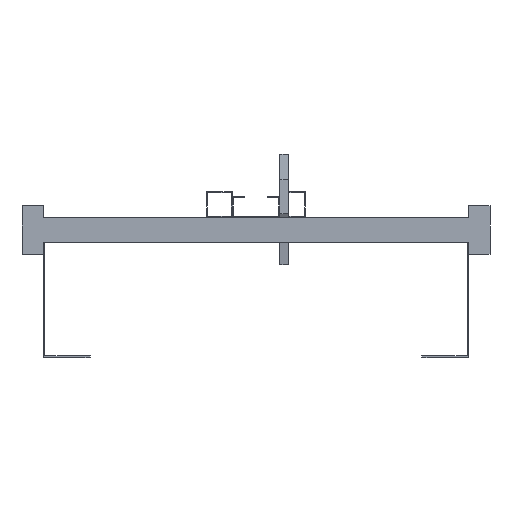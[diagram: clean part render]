
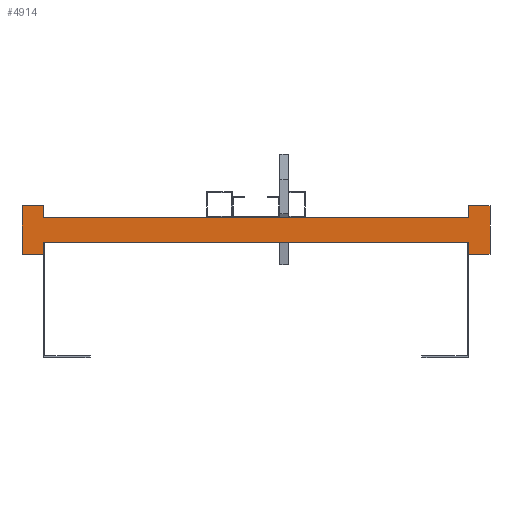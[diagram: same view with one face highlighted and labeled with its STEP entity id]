
A CAD part, front view. The second image highlights one B-rep face of the part: STEP entity #4914.
In plain terms, the highlighted planar face has unit normal (0, -1, 0).
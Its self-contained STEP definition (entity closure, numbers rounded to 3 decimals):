
#1773=DIRECTION('',(0.,0.,1.));
#1774=VECTOR('',#1773,13.5);
#1775=CARTESIAN_POINT('',(250.,0.,-28.5));
#1776=LINE('',#1775,#1774);
#1777=DIRECTION('',(0.,0.,-1.));
#1778=VECTOR('',#1777,13.5);
#1779=CARTESIAN_POINT('',(-250.,0.,-15.));
#1780=LINE('',#1779,#1778);
#1781=DIRECTION('',(-1.,0.,0.));
#1782=VECTOR('',#1781,25.);
#1783=CARTESIAN_POINT('',(-250.,0.,-28.5));
#1784=LINE('',#1783,#1782);
#1785=DIRECTION('',(0.,0.,1.));
#1786=VECTOR('',#1785,57.);
#1787=CARTESIAN_POINT('',(-275.,0.,-28.5));
#1788=LINE('',#1787,#1786);
#1789=DIRECTION('',(1.,0.,0.));
#1790=VECTOR('',#1789,25.);
#1791=CARTESIAN_POINT('',(-275.,0.,28.5));
#1792=LINE('',#1791,#1790);
#1793=DIRECTION('',(0.,0.,-1.));
#1794=VECTOR('',#1793,13.5);
#1795=CARTESIAN_POINT('',(-250.,0.,28.5));
#1796=LINE('',#1795,#1794);
#1797=DIRECTION('',(0.,0.,1.));
#1798=VECTOR('',#1797,13.5);
#1799=CARTESIAN_POINT('',(250.,0.,15.));
#1800=LINE('',#1799,#1798);
#1801=DIRECTION('',(1.,0.,0.));
#1802=VECTOR('',#1801,25.);
#1803=CARTESIAN_POINT('',(250.,0.,28.5));
#1804=LINE('',#1803,#1802);
#1805=DIRECTION('',(0.,0.,-1.));
#1806=VECTOR('',#1805,57.);
#1807=CARTESIAN_POINT('',(275.,0.,28.5));
#1808=LINE('',#1807,#1806);
#1809=DIRECTION('',(-1.,0.,0.));
#1810=VECTOR('',#1809,25.);
#1811=CARTESIAN_POINT('',(275.,0.,-28.5));
#1812=LINE('',#1811,#1810);
#1813=DIRECTION('',(1.,0.,0.));
#1814=VECTOR('',#1813,500.);
#1815=CARTESIAN_POINT('',(-250.,0.,-15.));
#1816=LINE('',#1815,#1814);
#1825=DIRECTION('',(1.,0.,0.));
#1826=VECTOR('',#1825,500.);
#1827=CARTESIAN_POINT('',(-250.,0.,15.));
#1828=LINE('',#1827,#1826);
#1881=CARTESIAN_POINT('',(-275.,0.,28.5));
#1882=CARTESIAN_POINT('',(-250.,0.,28.5));
#1883=VERTEX_POINT('',#1881);
#1884=VERTEX_POINT('',#1882);
#1885=CARTESIAN_POINT('',(-250.,0.,-28.5));
#1886=CARTESIAN_POINT('',(-275.,0.,-28.5));
#1887=VERTEX_POINT('',#1885);
#1888=VERTEX_POINT('',#1886);
#1889=CARTESIAN_POINT('',(275.,0.,28.5));
#1890=CARTESIAN_POINT('',(275.,0.,-28.5));
#1891=VERTEX_POINT('',#1889);
#1892=VERTEX_POINT('',#1890);
#1893=CARTESIAN_POINT('',(250.,0.,-28.5));
#1894=VERTEX_POINT('',#1893);
#1895=CARTESIAN_POINT('',(250.,0.,28.5));
#1896=VERTEX_POINT('',#1895);
#1913=CARTESIAN_POINT('',(-250.,0.,-15.));
#1915=VERTEX_POINT('',#1913);
#1917=CARTESIAN_POINT('',(-250.,0.,15.));
#1919=VERTEX_POINT('',#1917);
#1921=CARTESIAN_POINT('',(250.,0.,-15.));
#1923=VERTEX_POINT('',#1921);
#1925=CARTESIAN_POINT('',(250.,0.,15.));
#1927=VERTEX_POINT('',#1925);
#4889=CARTESIAN_POINT('',(0.,0.,0.));
#4890=DIRECTION('',(0.,1.,0.));
#4891=DIRECTION('',(1.,0.,0.));
#4892=AXIS2_PLACEMENT_3D('',#4889,#4890,#4891);
#4893=PLANE('',#4892);
#4894=ORIENTED_EDGE('',*,*,#2838,.T.);
#4896=ORIENTED_EDGE('',*,*,#4895,.F.);
#4897=ORIENTED_EDGE('',*,*,#2560,.T.);
#4898=ORIENTED_EDGE('',*,*,#3825,.T.);
#4900=ORIENTED_EDGE('',*,*,#4899,.T.);
#4902=ORIENTED_EDGE('',*,*,#4901,.T.);
#4903=ORIENTED_EDGE('',*,*,#2568,.T.);
#4905=ORIENTED_EDGE('',*,*,#4904,.T.);
#4906=ORIENTED_EDGE('',*,*,#2830,.T.);
#4908=ORIENTED_EDGE('',*,*,#4907,.T.);
#4910=ORIENTED_EDGE('',*,*,#4909,.T.);
#4911=ORIENTED_EDGE('',*,*,#4142,.T.);
#4912=EDGE_LOOP('',(#4894,#4896,#4897,#4898,#4900,#4902,#4903,#4905,#4906,#4908,
#4910,#4911));
#4913=FACE_OUTER_BOUND('',#4912,.F.);
#2560=EDGE_CURVE('',#1915,#1887,#1780,.T.);
#2568=EDGE_CURVE('',#1884,#1919,#1796,.T.);
#2830=EDGE_CURVE('',#1927,#1896,#1800,.T.);
#2838=EDGE_CURVE('',#1894,#1923,#1776,.T.);
#3825=EDGE_CURVE('',#1887,#1888,#1784,.T.);
#4142=EDGE_CURVE('',#1892,#1894,#1812,.T.);
#4895=EDGE_CURVE('',#1915,#1923,#1816,.T.);
#4899=EDGE_CURVE('',#1888,#1883,#1788,.T.);
#4901=EDGE_CURVE('',#1883,#1884,#1792,.T.);
#4904=EDGE_CURVE('',#1919,#1927,#1828,.T.);
#4907=EDGE_CURVE('',#1896,#1891,#1804,.T.);
#4909=EDGE_CURVE('',#1891,#1892,#1808,.T.);
#4914=ADVANCED_FACE('',(#4913),#4893,.F.);
